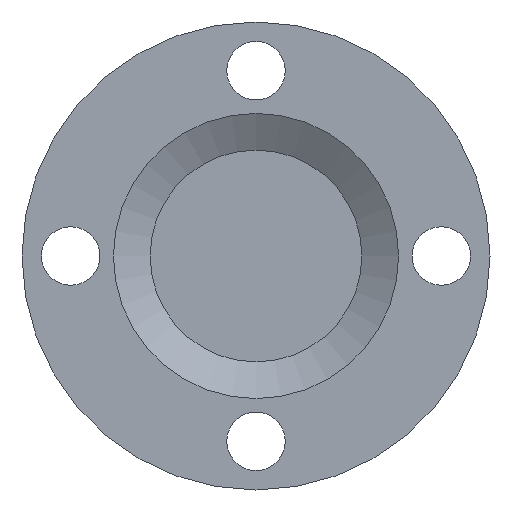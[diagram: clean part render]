
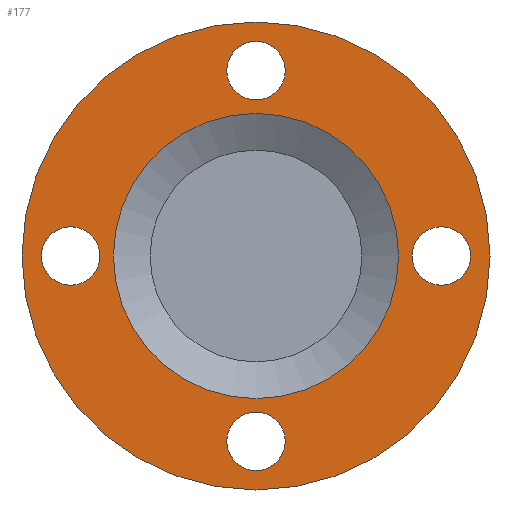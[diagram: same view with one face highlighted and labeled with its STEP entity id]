
A CAD part, left-side view. The second image highlights one B-rep face of the part: STEP entity #177.
In plain terms, the highlighted planar face has unit normal (-1, 0, 0).
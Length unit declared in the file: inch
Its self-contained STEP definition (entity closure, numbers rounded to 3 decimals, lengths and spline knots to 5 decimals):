
#177 = ADVANCED_FACE( '', ( #460, #461, #462, #463, #464, #465 ), #466, .T. );
#460 = FACE_BOUND( '', #973, .T. );
#461 = FACE_BOUND( '', #974, .T. );
#462 = FACE_OUTER_BOUND( '', #975, .T. );
#463 = FACE_BOUND( '', #976, .T. );
#464 = FACE_BOUND( '', #977, .T. );
#465 = FACE_BOUND( '', #978, .T. );
#466 = PLANE( '', #979 );
#973 = EDGE_LOOP( '', ( #2012 ) );
#974 = EDGE_LOOP( '', ( #2013 ) );
#975 = EDGE_LOOP( '', ( #2014 ) );
#976 = EDGE_LOOP( '', ( #2015 ) );
#977 = EDGE_LOOP( '', ( #2016 ) );
#978 = EDGE_LOOP( '', ( #2017 ) );
#979 = AXIS2_PLACEMENT_3D( '', #2018, #2019, #2020 );
#2012 = ORIENTED_EDGE( '', *, *, #2849, .T. );
#2013 = ORIENTED_EDGE( '', *, *, #2915, .T. );
#2014 = ORIENTED_EDGE( '', *, *, #2903, .T. );
#2015 = ORIENTED_EDGE( '', *, *, #2916, .F. );
#2016 = ORIENTED_EDGE( '', *, *, #2917, .T. );
#2017 = ORIENTED_EDGE( '', *, *, #2918, .T. );
#2018 = CARTESIAN_POINT( '', ( 0.063, 0., 1.8285 ) );
#2019 = DIRECTION( '', ( -1., 0., 0. ) );
#2020 = DIRECTION( '', ( 0., 0., 1. ) );
#2849 = EDGE_CURVE( '', #3240, #3240, #3241, .T. );
#2903 = EDGE_CURVE( '', #3333, #3333, #3334, .T. );
#2915 = EDGE_CURVE( '', #3354, #3354, #3355, .T. );
#2916 = EDGE_CURVE( '', #3356, #3356, #3357, .T. );
#2917 = EDGE_CURVE( '', #3358, #3358, #3359, .T. );
#2918 = EDGE_CURVE( '', #3360, #3360, #3361, .T. );
#3240 = VERTEX_POINT( '', #3826 );
#3241 = CIRCLE( '', #3827, 0.375 );
#3333 = VERTEX_POINT( '', #4012 );
#3334 = CIRCLE( '', #4013, 3. );
#3354 = VERTEX_POINT( '', #4046 );
#3355 = CIRCLE( '', #4047, 0.375 );
#3356 = VERTEX_POINT( '', #4048 );
#3357 = CIRCLE( '', #4049, 1.8285 );
#3358 = VERTEX_POINT( '', #4050 );
#3359 = CIRCLE( '', #4051, 0.375 );
#3360 = VERTEX_POINT( '', #4052 );
#3361 = CIRCLE( '', #4053, 0.375 );
#3826 = CARTESIAN_POINT( '', ( 0.063, 0.375, -2.375 ) );
#3827 = AXIS2_PLACEMENT_3D( '', #5188, #5189, #5190 );
#4012 = CARTESIAN_POINT( '', ( 0.063, 0., 3. ) );
#4013 = AXIS2_PLACEMENT_3D( '', #5233, #5234, #5235 );
#4046 = CARTESIAN_POINT( '', ( 0.063, -0.375, 2.375 ) );
#4047 = AXIS2_PLACEMENT_3D( '', #5236, #5237, #5238 );
#4048 = CARTESIAN_POINT( '', ( 0.063, 0., 1.8285 ) );
#4049 = AXIS2_PLACEMENT_3D( '', #5239, #5240, #5241 );
#4050 = CARTESIAN_POINT( '', ( 0.063, -2.375, -0.375 ) );
#4051 = AXIS2_PLACEMENT_3D( '', #5242, #5243, #5244 );
#4052 = CARTESIAN_POINT( '', ( 0.063, 2.375, 0.375 ) );
#4053 = AXIS2_PLACEMENT_3D( '', #5245, #5246, #5247 );
#5188 = CARTESIAN_POINT( '', ( 0.063, 0., -2.375 ) );
#5189 = DIRECTION( '', ( 1., 0., 0. ) );
#5190 = DIRECTION( '', ( 0., 1., 0. ) );
#5233 = CARTESIAN_POINT( '', ( 0.063, 0., 0. ) );
#5234 = DIRECTION( '', ( -1., 0., 0. ) );
#5235 = DIRECTION( '', ( 0., 0., 1. ) );
#5236 = CARTESIAN_POINT( '', ( 0.063, 0., 2.375 ) );
#5237 = DIRECTION( '', ( 1., 0., 0. ) );
#5238 = DIRECTION( '', ( 0., -1., 0. ) );
#5239 = CARTESIAN_POINT( '', ( 0.063, 0., 0. ) );
#5240 = DIRECTION( '', ( -1., 0., 0. ) );
#5241 = DIRECTION( '', ( 0., 0., 1. ) );
#5242 = CARTESIAN_POINT( '', ( 0.063, -2.375, 0. ) );
#5243 = DIRECTION( '', ( 1., 0., 0. ) );
#5244 = DIRECTION( '', ( 0., 0., -1. ) );
#5245 = CARTESIAN_POINT( '', ( 0.063, 2.375, 0. ) );
#5246 = DIRECTION( '', ( 1., 0., 0. ) );
#5247 = DIRECTION( '', ( 0., 0., 1. ) );
